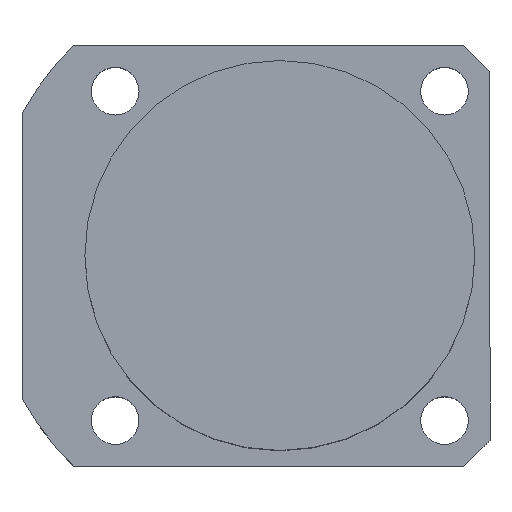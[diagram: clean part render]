
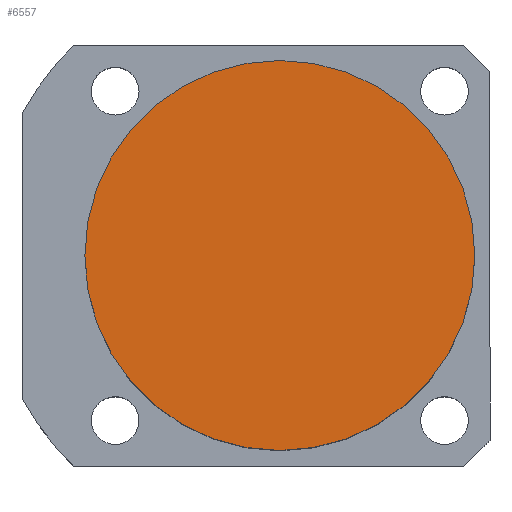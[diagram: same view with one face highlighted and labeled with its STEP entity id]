
A CAD part, top view. The second image highlights one B-rep face of the part: STEP entity #6557.
In plain terms, the highlighted planar face has unit normal (0, 0, 1).
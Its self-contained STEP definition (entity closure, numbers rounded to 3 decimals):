
#131 = VERTEX_POINT ( 'NONE', #6556 ) ;
#146 = EDGE_CURVE ( 'NONE', #131, #6097, #1373, .T. ) ;
#536 = DIRECTION ( 'NONE',  ( 0., 0., 1. ) ) ;
#577 = CARTESIAN_POINT ( 'NONE',  ( 0., 0., 64.5 ) ) ;
#774 = EDGE_LOOP ( 'NONE', ( #2177, #4408 ) ) ;
#1070 = CARTESIAN_POINT ( 'NONE',  ( 0., 0., 64.5 ) ) ;
#1079 = AXIS2_PLACEMENT_3D ( 'NONE', #3816, #536, #4362 ) ;
#1373 = CIRCLE ( 'NONE', #4405, 45. ) ;
#1589 = PLANE ( 'NONE',  #6447 ) ;
#1612 = DIRECTION ( 'NONE',  ( 0., 0., 1. ) ) ;
#2177 = ORIENTED_EDGE ( 'NONE', *, *, #146, .T. ) ;
#2666 = CIRCLE ( 'NONE', #1079, 45. ) ;
#2827 = FACE_OUTER_BOUND ( 'NONE', #774, .T. ) ;
#3497 = DIRECTION ( 'NONE',  ( 0., 0., 1. ) ) ;
#3816 = CARTESIAN_POINT ( 'NONE',  ( 0., 0., 64.5 ) ) ;
#4362 = DIRECTION ( 'NONE',  ( 1., 0., 0. ) ) ;
#4405 = AXIS2_PLACEMENT_3D ( 'NONE', #577, #3497, #6147 ) ;
#4408 = ORIENTED_EDGE ( 'NONE', *, *, #6128, .T. ) ;
#5421 = DIRECTION ( 'NONE',  ( 1., 0., 0. ) ) ;
#6097 = VERTEX_POINT ( 'NONE', #7041 ) ;
#6128 = EDGE_CURVE ( 'NONE', #6097, #131, #2666, .T. ) ;
#6147 = DIRECTION ( 'NONE',  ( 1., 0., 0. ) ) ;
#6447 = AXIS2_PLACEMENT_3D ( 'NONE', #1070, #1612, #5421 ) ;
#6556 = CARTESIAN_POINT ( 'NONE',  ( -45., 0., 64.5 ) ) ;
#6557 = ADVANCED_FACE ( 'NONE', ( #2827 ), #1589, .T. ) ;
#7041 = CARTESIAN_POINT ( 'NONE',  ( 45., 0., 64.5 ) ) ;
